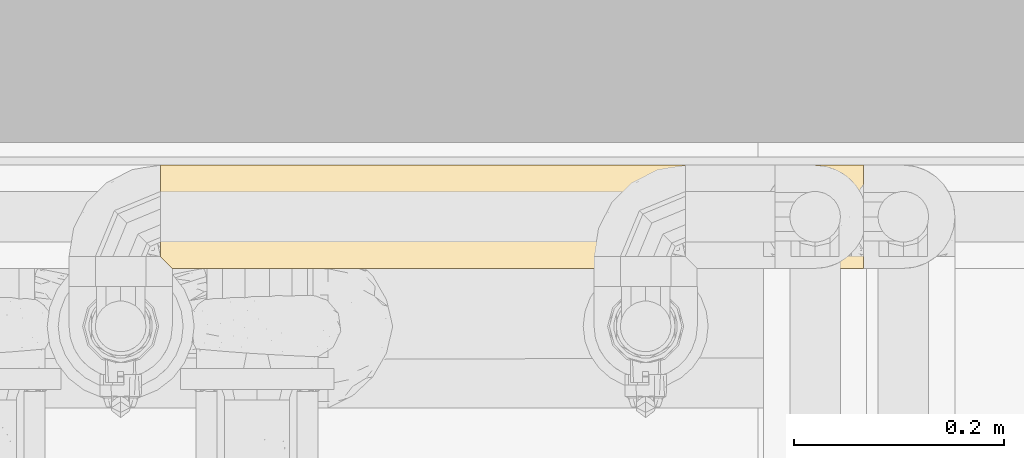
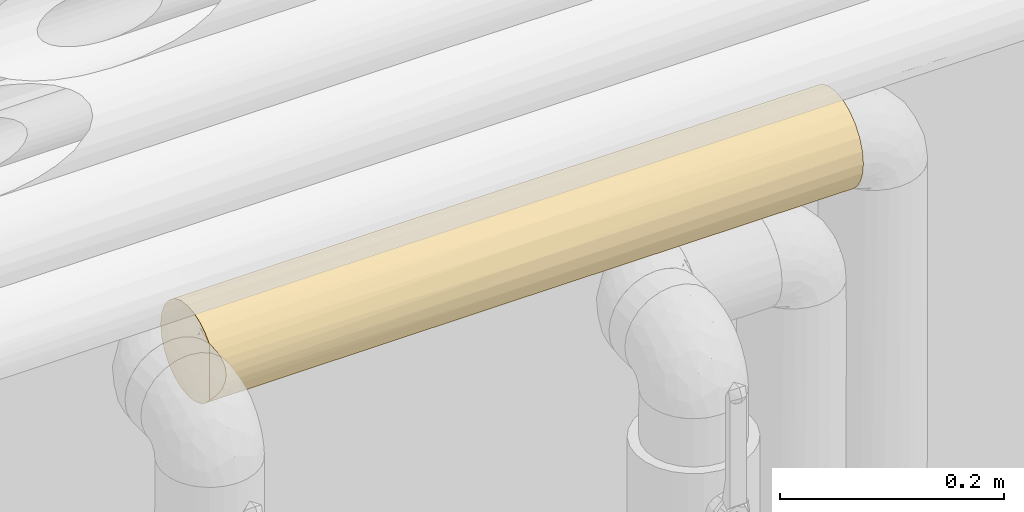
# One storey, part 49 of 94: 1 covering.
"""IFC2X3 building model written with IfcOpenShell, lengths in millimetres."""

from ifc_helpers import new_model, entity, si_unit, converted_unit, derived_unit, direction, frame, origin, place, context, subcontext, project, spatial, faceted_brep, material, element, save


model = new_model("IFC2X3")

# Units and contexts
model_context = context("Model", 3, precision=0.01, world=origin(), true_north=direction((6.123031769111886e-17, 1.0)))
body_context = subcontext(model_context, "Body", "Model", "MODEL_VIEW")
ifc_project = project(units=[si_unit("LENGTHUNIT", "METRE", prefix="MILLI"), si_unit("AREAUNIT", "SQUARE_METRE"), si_unit("VOLUMEUNIT", "CUBIC_METRE"), converted_unit("PLANEANGLEUNIT", "DEGREE", entity("IfcRatioMeasure", 0.017453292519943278), si_unit("PLANEANGLEUNIT", "RADIAN"), dimensions=[0, 0, 0, 0, 0, 0, 0]), si_unit("MASSUNIT", "GRAM", prefix="KILO"), derived_unit("MASSDENSITYUNIT", [(si_unit("MASSUNIT", "GRAM", prefix="KILO"), 1), (si_unit("LENGTHUNIT", "METRE"), -3)]), derived_unit("IONCONCENTRATIONUNIT", [(si_unit("MASSUNIT", "GRAM", prefix="KILO"), 1), (si_unit("LENGTHUNIT", "METRE"), -3)]), derived_unit("MOMENTOFINERTIAUNIT", [(si_unit("LENGTHUNIT", "METRE"), 4)]), si_unit("TIMEUNIT", "SECOND"), si_unit("FREQUENCYUNIT", "HERTZ"), si_unit("THERMODYNAMICTEMPERATUREUNIT", "DEGREE_CELSIUS"), derived_unit("THERMALTRANSMITTANCEUNIT", [(si_unit("MASSUNIT", "GRAM", prefix="KILO"), 1), (si_unit("THERMODYNAMICTEMPERATUREUNIT", "KELVIN"), -1), (si_unit("TIMEUNIT", "SECOND"), -3)]), derived_unit("THERMALCONDUCTANCEUNIT", [(si_unit("MASSUNIT", "GRAM", prefix="KILO"), 1), (si_unit("THERMODYNAMICTEMPERATUREUNIT", "KELVIN"), -1), (si_unit("TIMEUNIT", "SECOND"), -3), (si_unit("LENGTHUNIT", "METRE"), 1)]), derived_unit("VOLUMETRICFLOWRATEUNIT", [(si_unit("LENGTHUNIT", "METRE"), 3), (si_unit("TIMEUNIT", "SECOND"), -1)]), derived_unit("MASSFLOWRATEUNIT", [(si_unit("MASSUNIT", "GRAM", prefix="KILO"), 1), (si_unit("TIMEUNIT", "SECOND"), -1)]), derived_unit("ROTATIONALFREQUENCYUNIT", [(si_unit("TIMEUNIT", "SECOND"), -1)]), si_unit("ELECTRICCURRENTUNIT", "AMPERE"), si_unit("ELECTRICVOLTAGEUNIT", "VOLT"), si_unit("POWERUNIT", "WATT"), si_unit("FORCEUNIT", "NEWTON", prefix="KILO"), si_unit("ILLUMINANCEUNIT", "LUX"), si_unit("LUMINOUSFLUXUNIT", "LUMEN"), si_unit("LUMINOUSINTENSITYUNIT", "CANDELA"), derived_unit("USERDEFINED", [(si_unit("MASSUNIT", "GRAM", prefix="KILO"), -1), (si_unit("LENGTHUNIT", "METRE"), -2), (si_unit("TIMEUNIT", "SECOND"), 3), (si_unit("LUMINOUSFLUXUNIT", "LUMEN"), 1)]), derived_unit("USERDEFINED", [(si_unit("MASSUNIT", "GRAM", prefix="KILO"), 1), (si_unit("TIMEUNIT", "SECOND"), -3), (si_unit("LENGTHUNIT", "METRE"), 3), (si_unit("ELECTRICCURRENTUNIT", "AMPERE"), -2)]), derived_unit("SOUNDPOWERUNIT", [(si_unit("MASSUNIT", "GRAM", prefix="KILO"), 1), (si_unit("TIMEUNIT", "SECOND"), -3), (si_unit("LENGTHUNIT", "METRE"), 2)]), derived_unit("SOUNDPRESSUREUNIT", [(si_unit("MASSUNIT", "GRAM", prefix="KILO"), 1), (si_unit("LENGTHUNIT", "METRE"), -1), (si_unit("TIMEUNIT", "SECOND"), -2)]), derived_unit("LINEARVELOCITYUNIT", [(si_unit("LENGTHUNIT", "METRE"), 1), (si_unit("TIMEUNIT", "SECOND"), -1)]), si_unit("PRESSUREUNIT", "PASCAL"), derived_unit("USERDEFINED", [(si_unit("MASSUNIT", "GRAM", prefix="KILO"), 1), (si_unit("LENGTHUNIT", "METRE"), -2), (si_unit("TIMEUNIT", "SECOND"), -2)]), derived_unit("LINEARFORCEUNIT", [(si_unit("MASSUNIT", "GRAM", prefix="KILO"), 1), (si_unit("TIMEUNIT", "SECOND"), -2)]), derived_unit("PLANARFORCEUNIT", [(si_unit("MASSUNIT", "GRAM", prefix="KILO"), 1), (si_unit("LENGTHUNIT", "METRE"), -1), (si_unit("TIMEUNIT", "SECOND"), -2)]), derived_unit("SPECIFICHEATCAPACITYUNIT", [(si_unit("THERMODYNAMICTEMPERATUREUNIT", "KELVIN"), -1), (si_unit("LENGTHUNIT", "METRE"), 2), (si_unit("TIMEUNIT", "SECOND"), -2)]), derived_unit("HEATINGVALUEUNIT", [(si_unit("LENGTHUNIT", "METRE"), 2), (si_unit("TIMEUNIT", "SECOND"), -2)]), derived_unit("VAPORPERMEABILITYUNIT", [(si_unit("LENGTHUNIT", "METRE"), -1), (si_unit("TIMEUNIT", "SECOND"), 1)]), derived_unit("DYNAMICVISCOSITYUNIT", [(si_unit("MASSUNIT", "GRAM", prefix="KILO"), 1), (si_unit("TIMEUNIT", "SECOND"), -1), (si_unit("LENGTHUNIT", "METRE"), -1)]), derived_unit("THERMALEXPANSIONCOEFFICIENTUNIT", [(si_unit("THERMODYNAMICTEMPERATUREUNIT", "KELVIN"), -1)]), derived_unit("MODULUSOFELASTICITYUNIT", [(si_unit("MASSUNIT", "GRAM", prefix="KILO"), 1), (si_unit("LENGTHUNIT", "METRE"), -1), (si_unit("TIMEUNIT", "SECOND"), -2)]), derived_unit("ISOTHERMALMOISTURECAPACITYUNIT", [(si_unit("LENGTHUNIT", "METRE"), 3), (si_unit("MASSUNIT", "GRAM", prefix="KILO"), -1)]), derived_unit("MOISTUREDIFFUSIVITYUNIT", [(si_unit("TIMEUNIT", "SECOND"), -1), (si_unit("LENGTHUNIT", "METRE"), 2)])], contexts=[model_context])

# Site, building, storey
site_placement = place(None, origin())
site = spatial("IfcSite", under=ifc_project, at=site_placement, Name="Default", CompositionType="ELEMENT")
building_placement = place(site_placement, origin())
building = spatial("IfcBuilding", under=site, at=building_placement, CompositionType="ELEMENT")
storey_placement = place(building_placement, origin())
storey = spatial("IfcBuildingStorey", under=building, at=storey_placement, Name="Niveau 0", CompositionType="ELEMENT", Elevation=0.0)

# Covering
ifc_material = material(Name="Isolation - Laine minérale")
covering_placement = place(storey_placement, frame((-7635.7411377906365, 9976.120352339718, 2400.7252722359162)))
element("IfcCovering", 1, at=covering_placement, inside=storey, material=ifc_material, Name="Isolation des canalisations:Laine minérale", ObjectType="Isolation des canalisations:Laine minérale", PredefinedType="INSULATION", context=body_context, shape_type="Brep", body=[
    faceted_brep([(1.5952722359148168, 29.696487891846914, -95.1273794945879), (1.5952722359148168, 20.47495615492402, -89.43799982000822), (1.5952722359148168, 12.72527223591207, -81.86619226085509), (1.5952722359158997, 12.725272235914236, -19.58435221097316), (1.5952722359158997, 20.47495615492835, -12.012544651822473), (1.5952722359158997, 29.69648789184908, -6.323164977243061), (1.5952722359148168, 39.94049838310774, -2.793596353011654), (1.5952722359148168, 50.72527223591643, -1.5952722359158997), (1.5952722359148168, 63.44105192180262, -3.2693363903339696), (1.5952722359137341, 75.29027223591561, -8.177444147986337), (1.5952722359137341, 85.46542839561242, -15.985116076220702), (1.5952722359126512, 93.2731003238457, -26.16027223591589), (1.5952722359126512, 98.18120808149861, -38.00949255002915), (1.5952722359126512, 99.85527223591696, -50.72527223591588), (1.5952722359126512, 98.18120808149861, -63.44105192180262), (1.5952722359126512, 93.2731003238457, -75.29027223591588), (1.5952722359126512, 85.46542839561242, -85.46542839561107), (1.5952722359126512, 75.29027223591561, -93.27310032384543), (1.5952722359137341, 63.44105192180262, -98.1812080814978), (1.5952722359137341, 50.72527223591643, -99.85527223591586), (1.5952722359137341, 39.94049838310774, -98.65694811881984), (671.000455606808, 1.595272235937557, -50.725272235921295), (671.000455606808, 2.7935963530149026, -61.51004608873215), (671.000455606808, 6.32316497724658, -71.7540565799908), (671.0004556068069, 12.012544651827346, -80.9755883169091), (671.0004556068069, 19.584352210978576, -88.7252722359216), (671.0004556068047, 81.86619226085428, -88.72527223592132), (671.0004556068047, 89.43799982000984, -80.9755883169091), (671.0004556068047, 95.12737949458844, -71.7540565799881), (671.0004556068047, 98.65694811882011, -61.51004608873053), (671.0004556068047, 99.85527223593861, -50.725272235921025), (671.0004556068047, 98.18120808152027, -38.009492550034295), (671.0004556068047, 93.27310032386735, -26.160272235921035), (671.0004556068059, 85.46542839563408, -15.985116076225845), (671.0004556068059, 75.29027223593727, -8.17744414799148), (671.0004556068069, 63.441051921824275, -3.269336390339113), (671.0004556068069, 50.725272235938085, -1.5952722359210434), (671.0004556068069, 38.009492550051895, -3.269336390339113), (671.000455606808, 26.1602722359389, -8.177444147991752), (671.000455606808, 15.985116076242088, -15.985116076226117), (671.000455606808, 8.177444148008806, -26.160272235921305), (671.000455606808, 3.2693363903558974, -38.009492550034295), (426.2571207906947, 99.85527223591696, -50.725272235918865), (347.6180456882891, 97.17542625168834, -66.72964950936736), (660.5922832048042, 59.11608534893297, -99.13344463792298), (659.8704556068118, 50.725272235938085, -99.85527223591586), (415.1276475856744, 50.72527223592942, -99.85527223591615), (336.29786392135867, 99.85527223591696, -50.72527223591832), (343.1969268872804, 63.325363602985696, -98.21205563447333), (309.87308706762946, 89.70272183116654, -80.63372126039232), (336.2528393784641, 78.67450331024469, -91.13068502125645), (666.2402644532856, 74.91872078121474, -93.48546338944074), (662.7365555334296, 67.26033951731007, -96.98917230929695), (238.62908225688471, 16.03072024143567, -85.51097277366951), (331.2745097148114, 10.317965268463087, -78.67176474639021), (340.93067421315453, 38.12453255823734, -98.21188360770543), (666.2402644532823, 26.531823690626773, -93.48546338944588), (341.32121816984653, 22.778779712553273, -91.13257919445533), (331.66505366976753, 3.238660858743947, -63.32601189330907), (12.003444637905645, 2.3170998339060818, -59.116085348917), (9.859172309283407, 4.461372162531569, -67.26033951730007), (660.5922832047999, 42.334459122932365, -99.13344463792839), (6.355463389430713, 7.96508108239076, -74.91872078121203), (257.4685997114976, 1.5952722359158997, -50.72527223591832), (12.725272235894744, 1.5952722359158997, -50.72527223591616), (662.7365555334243, 34.190204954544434, -96.98917230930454), (329.39880109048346, 3.2384888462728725, -38.12518083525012), (336.34288886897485, 10.319859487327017, -22.77604110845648), (12.003444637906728, 2.3170998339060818, -42.3344591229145), (9.859172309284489, 4.461372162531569, -34.19020495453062), (362.72264083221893, 20.81682323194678, -11.747822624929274), (6.3554633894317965, 7.96508108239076, -26.531823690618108), (324.9776844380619, 34.72089518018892, -4.275118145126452), (246.33859948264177, 50.72527223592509, -1.5952722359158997), (272.4750004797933, 60.381748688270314, -2.5536066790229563), (328.21515827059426, 69.52650926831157, -5.335070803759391), (275.1256281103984, 98.91125306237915, -41.14048471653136), (336.29786393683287, 96.1154736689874, -31.924035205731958), (336.2978639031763, 80.63372124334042, -11.747822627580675), (328.21515821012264, 89.70272184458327, -20.816823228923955)], [[[0, 1, 2, 3, 4, 5, 6, 7, 8, 9, 10, 11, 12, 13, 14, 15, 16, 17, 18, 19, 20]], [[21, 22, 23, 24, 25, 26, 27, 28, 29, 30, 31, 32, 33, 34, 35, 36, 37, 38, 39, 40, 41]], [[42, 29, 43]], [[44, 45, 46]], [[14, 13, 47, 42]], [[48, 18, 17]], [[49, 43, 28]], [[42, 30, 29]], [[28, 27, 49]], [[43, 49, 15]], [[14, 43, 15]], [[16, 15, 49]], [[42, 43, 14]], [[50, 49, 26]], [[29, 28, 43]], [[48, 51, 52]], [[50, 16, 49]], [[44, 48, 52]], [[17, 16, 50]], [[46, 48, 44]], [[51, 48, 50]], [[48, 17, 50]], [[19, 18, 48]], [[48, 46, 19]], [[51, 50, 26]], [[49, 27, 26]], [[53, 54, 2]], [[46, 55, 19]], [[56, 25, 57]], [[58, 59, 60]], [[0, 57, 1]], [[57, 55, 56]], [[46, 61, 55]], [[45, 61, 46]], [[0, 20, 55]], [[60, 62, 58]], [[55, 20, 19]], [[55, 57, 0]], [[63, 58, 21]], [[1, 57, 53]], [[58, 54, 23]], [[23, 22, 58]], [[63, 64, 59]], [[23, 54, 24]], [[62, 2, 54]], [[24, 54, 53]], [[65, 56, 55]], [[63, 59, 58]], [[55, 61, 65]], [[58, 62, 54]], [[1, 53, 2]], [[25, 53, 57]], [[53, 25, 24]], [[58, 22, 21]], [[21, 66, 63]], [[66, 21, 41]], [[40, 67, 66]], [[40, 39, 67]], [[68, 66, 69]], [[67, 39, 70]], [[66, 71, 69]], [[66, 67, 71]], [[68, 64, 63]], [[67, 3, 71]], [[63, 66, 68]], [[70, 39, 38]], [[38, 37, 72]], [[70, 4, 3]], [[73, 7, 6]], [[72, 6, 5]], [[5, 70, 72]], [[73, 72, 37]], [[5, 4, 70]], [[73, 6, 72]], [[36, 73, 37]], [[72, 70, 38]], [[3, 67, 70]], [[66, 41, 40]], [[74, 35, 75]], [[31, 76, 77]], [[74, 7, 73, 36]], [[75, 78, 9]], [[78, 75, 34]], [[74, 36, 35]], [[33, 78, 34]], [[78, 10, 9]], [[9, 8, 75]], [[32, 77, 79]], [[13, 76, 30, 42, 47]], [[77, 32, 31]], [[77, 11, 79]], [[33, 79, 78]], [[10, 78, 79]], [[32, 79, 33]], [[74, 75, 8]], [[11, 10, 79]], [[77, 76, 12]], [[11, 77, 12]], [[34, 75, 35]], [[76, 31, 30]], [[7, 74, 8]], [[76, 13, 12]], [[2, 62, 60, 59, 64, 68, 69, 71, 3]], [[45, 44, 52, 51, 26, 25, 56, 65, 61]]]),
])

save(model, "model.ifc")
